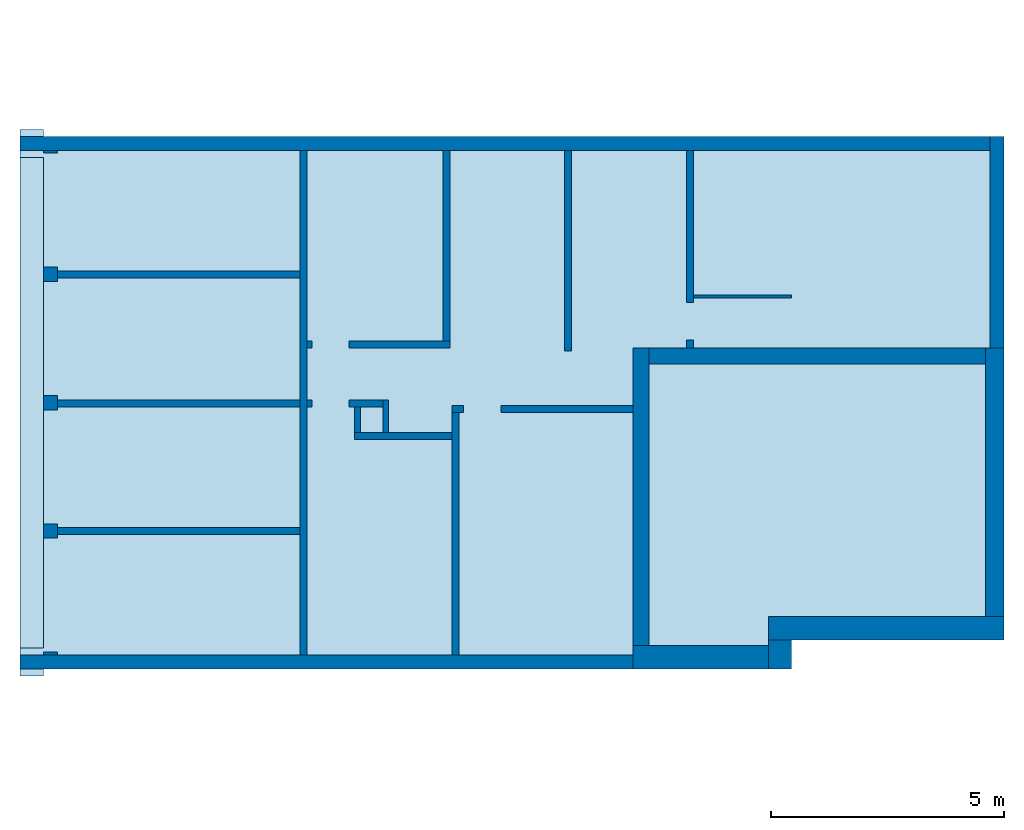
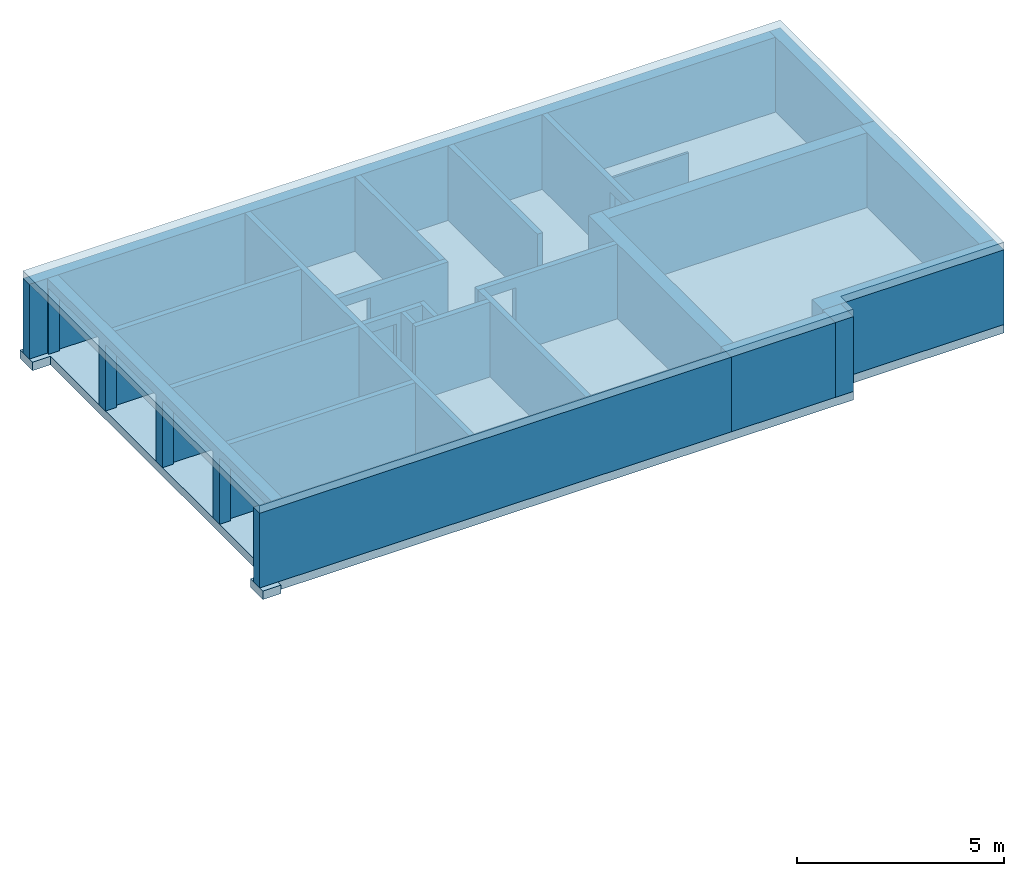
# One storey, part 1 of 2: 25 walls, 2 slabs, 8 openings.
"""IFC2X3 building model written with IfcOpenShell, lengths in metres."""

from ifc_helpers import new_model, entity, si_unit, converted_unit, derived_unit, direction, frame, frame_2d, origin, origin_with_axes, place, context, subcontext, project, spatial, polyline, rectangle, outline, extrude, faceted_brep, material, layer, layer_set, layer_usage, element, save


model = new_model("IFC2X3")

# Units and contexts
model_context = context("Model", 3, precision=1e-05, world=origin(), true_north=direction((0.772621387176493, -0.634867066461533)))
body_context = subcontext(model_context, "Body", "Model", "MODEL_VIEW")
ifc_project = project(units=[si_unit("LENGTHUNIT", "METRE"), si_unit("AREAUNIT", "SQUARE_METRE"), si_unit("VOLUMEUNIT", "CUBIC_METRE"), si_unit("MASSUNIT", "GRAM", prefix="KILO"), converted_unit("PLANEANGLEUNIT", "DEGREE", entity("IfcPlaneAngleMeasure", 0.0174532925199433), si_unit("PLANEANGLEUNIT", "RADIAN"), dimensions=[0, 0, 0, 0, 0, 0, 0]), derived_unit("THERMALTRANSMITTANCEUNIT", [(si_unit("POWERUNIT", "WATT"), 1), (si_unit("THERMODYNAMICTEMPERATUREUNIT", "KELVIN"), -1), (si_unit("LENGTHUNIT", "METRE"), -2)]), derived_unit("VOLUMETRICFLOWRATEUNIT", [(si_unit("LENGTHUNIT", "METRE"), 3), (converted_unit("TIMEUNIT", "hour", entity("IfcTimeMeasure", 3600.0), si_unit("TIMEUNIT", "SECOND"), dimensions=[0, 0, 1, 0, 0, 0, 0]), -1), (si_unit("LENGTHUNIT", "METRE"), -1)])], contexts=[model_context])

# Site, building, storey
site_placement = place(None, origin())
site = spatial("IfcSite", under=ifc_project, at=site_placement, Name="Modelle auf dem Nullpunkt", CompositionType="ELEMENT")
building_placement = place(site_placement, origin())
building = spatial("IfcBuilding", under=site, at=building_placement, Name="H", CompositionType="ELEMENT")
storey_placement = place(building_placement, origin())
storey = spatial("IfcBuildingStorey", under=building, at=storey_placement, Name="UG", CompositionType="ELEMENT", Elevation=0.0)

# Slabs
ifc_material_1 = material(Name="Béton")
slab_1_placement = place(storey_placement, frame((26.5338677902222, -8.88739379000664, 437.44)))
element("IfcSlab", 1, at=slab_1_placement, inside=storey, material=ifc_material_1, PredefinedType="FLOOR", context=body_context, shape_type="SweptSolid", body=[
    extrude(outline(polyline([(21.0800000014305, 0.620000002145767), (21.08, 11.4100000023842), (0.0, 11.41), (0.0, 0.0), (16.5300000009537, 0.0), (16.5300000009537, 0.62000000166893), (21.0800000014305, 0.620000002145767)])), origin_with_axes(), (0.0, 0.0, 1.0), 0.22),
])
ifc_material_2 = material(Name="Béton")
slab_2_placement = place(storey_placement, frame((26.5338677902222, -9.03739379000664, 434.99)))
element("IfcSlab", 2, at=slab_2_placement, inside=storey, material=ifc_material_2, PredefinedType="BASESLAB", context=body_context, shape_type="SweptSolid", body=[
    extrude(outline(polyline([(21.08, 11.5600000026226), (0.5, 11.5600000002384), (0.5, 11.7100000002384), (0.0, 11.7100000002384), (0.0, 11.1100000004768), (0.5, 11.1100000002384), (0.500000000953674, 0.602969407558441), (0.0, 0.602969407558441), (0.0, 0.0), (0.500000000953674, 0.0), (0.500000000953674, 0.150000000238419), (16.5300000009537, 0.15000000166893), (16.5300000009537, 0.770000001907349), (21.0800000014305, 0.770000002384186), (21.08, 11.5600000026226)])), origin_with_axes(), (0.0, 0.0, 1.0), 0.25),
])

# Walls
ifc_material_3 = material(Name="Béton")
ifc_layer_1 = layer(ifc_material_3, 0.300000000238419)
ifc_layer_set_1 = layer_set([ifc_layer_1])
ifc_layer_usage_1 = layer_usage(ifc_layer_set_1, "AXIS2", "POSITIVE", -5.08144056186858e-16)
wall_1_placement = place(storey_placement, frame((47.3138677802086, 2.52260620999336, 435.24), z_axis=(0.0, 0.0, 1.0), x_axis=(-1.0, -1.0326117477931e-10, 0.0)))
element("IfcWallStandardCase", 3, at=wall_1_placement, inside=storey, material=ifc_layer_usage_1, Name="Betonwand", context=body_context, shape_type="SweptSolid", body=[
    extrude(rectangle(XDim=20.78, YDim=0.300000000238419, at=frame_2d((10.39, 0.150000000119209), x_axis=(1.0, 0.0))), origin_with_axes(), (0.0, 0.0, 1.0), 2.2),
])
ifc_material_4 = material(Name="Béton")
ifc_layer_2 = layer(ifc_material_4, 0.300000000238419)
ifc_layer_set_2 = layer_set([ifc_layer_2])
ifc_layer_usage_2 = layer_usage(ifc_layer_set_2, "AXIS2", "POSITIVE", 0.0)
wall_2_placement = place(storey_placement, frame((26.5338677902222, -8.88739379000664, 435.24), z_axis=(0.0, 0.0, 1.0), x_axis=(1.0, 1.08949845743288e-10, 0.0)))
element("IfcWallStandardCase", 4, at=wall_2_placement, inside=storey, material=ifc_layer_usage_2, Name="Betonwand", context=body_context, shape_type="SweptSolid", body=[
    extrude(rectangle(XDim=13.13, YDim=0.300000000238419, at=frame_2d((6.565, 0.150000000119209), x_axis=(1.0, 0.0))), origin_with_axes(), (0.0, 0.0, 1.0), 2.2),
])
ifc_material_5 = material(Name="Béton")
ifc_layer_3 = layer(ifc_material_5, 0.499999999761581)
ifc_layer_set_3 = layer_set([ifc_layer_3])
ifc_layer_usage_3 = layer_usage(ifc_layer_set_3, "AXIS2", "POSITIVE", -1.79119171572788e-20)
wall_3_placement = place(storey_placement, frame((39.6638677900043, -8.88739379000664, 435.24), z_axis=(0.0, 0.0, 1.0), x_axis=(1.0, 8.22133031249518e-11, 0.0)))
element("IfcWallStandardCase", 5, at=wall_3_placement, inside=storey, material=ifc_layer_usage_3, Name="Betonwand", context=body_context, shape_type="SweptSolid", body=[
    extrude(rectangle(XDim=2.90000000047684, YDim=0.499999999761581, at=frame_2d((1.45000000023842, 0.249999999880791), x_axis=(1.0, 0.0))), origin_with_axes(), (0.0, 0.0, 1.0), 2.2),
])
ifc_material_6 = material(Name="Béton")
ifc_layer_4 = layer(ifc_material_6, 0.499999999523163)
ifc_layer_set_4 = layer_set([ifc_layer_4])
ifc_layer_usage_4 = layer_usage(ifc_layer_set_4, "AXIS2", "POSITIVE", 0.0)
wall_4_placement = place(storey_placement, frame((43.0638677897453, -8.88739379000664, 435.24), z_axis=(0.0, 0.0, 1.0), x_axis=(0.0, 1.0, 0.0)))
element("IfcWallStandardCase", 6, at=wall_4_placement, inside=storey, material=ifc_layer_usage_4, Name="Betonwand", context=body_context, shape_type="SweptSolid", body=[
    extrude(rectangle(XDim=0.620000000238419, YDim=0.499999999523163, at=frame_2d((0.310000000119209, 0.249999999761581), x_axis=(1.0, 0.0))), origin_with_axes(), (0.0, 0.0, 1.0), 2.2),
])
ifc_material_7 = material(Name="Béton")
ifc_layer_5 = layer(ifc_material_7, 0.35)
ifc_layer_set_5 = layer_set([ifc_layer_5])
ifc_layer_usage_5 = layer_usage(ifc_layer_set_5, "AXIS2", "POSITIVE", -1.50583635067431e-26)
wall_5_placement = place(storey_placement, frame((47.2138677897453, -2.00739379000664, 435.24), z_axis=(0.0, 0.0, 1.0), x_axis=(-1.0, -3.31136915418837e-11, 0.0)))
element("IfcWallStandardCase", 7, at=wall_5_placement, inside=storey, material=ifc_layer_usage_5, Name="Betonwand", context=body_context, shape_type="SweptSolid", body=[
    extrude(rectangle(XDim=7.2, YDim=0.35, at=frame_2d((3.6, 0.175), x_axis=(1.0, 0.0))), origin_with_axes(), (0.0, 0.0, 1.0), 2.2),
])
ifc_material_8 = material(Name="Béton")
ifc_layer_6 = layer(ifc_material_8, 0.4)
ifc_layer_set_6 = layer_set([ifc_layer_6])
ifc_layer_usage_6 = layer_usage(ifc_layer_set_6, "AXIS2", "POSITIVE", -8.49773569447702e-21)
wall_6_placement = place(storey_placement, frame((47.6138677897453, -7.76739379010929, 435.24), z_axis=(0.0, 0.0, 1.0), x_axis=(-8.27842288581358e-11, 1.0, 0.0)))
element("IfcWallStandardCase", 8, at=wall_6_placement, inside=storey, material=ifc_layer_usage_6, Name="Betonwand", context=body_context, shape_type="SweptSolid", body=[
    extrude(rectangle(XDim=5.75999999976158, YDim=0.4, at=frame_2d((2.87999999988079, 0.2), x_axis=(1.0, 0.0))), origin_with_axes(), (0.0, 0.0, 1.0), 2.2),
])
ifc_material_9 = material(Name="Béton")
ifc_layer_7 = layer(ifc_material_9, 0.500000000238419)
ifc_layer_set_7 = layer_set([ifc_layer_7])
ifc_layer_usage_7 = layer_usage(ifc_layer_set_7, "AXIS2", "POSITIVE", -2.70216707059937e-16)
wall_7_placement = place(storey_placement, frame((42.5638677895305, -8.26739379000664, 435.24), z_axis=(0.0, 0.0, 1.0), x_axis=(1.0, 9.44231996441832e-11, 0.0)))
element("IfcWallStandardCase", 9, at=wall_7_placement, inside=storey, material=ifc_layer_usage_7, Name="Betonwand", context=body_context, shape_type="SweptSolid", body=[
    extrude(rectangle(XDim=5.05, YDim=0.500000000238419, at=frame_2d((2.525, 0.250000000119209), x_axis=(1.0, 0.0))), origin_with_axes(), (0.0, 0.0, 1.0), 2.2),
])
ifc_material_10 = material(Name="Béton")
ifc_layer_8 = layer(ifc_material_10, 0.3)
ifc_layer_set_8 = layer_set([ifc_layer_8])
ifc_layer_usage_8 = layer_usage(ifc_layer_set_8, "AXIS2", "POSITIVE", -1.08862035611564e-20)
wall_8_placement = place(storey_placement, frame((47.6138677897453, -2.00739379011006, 435.24), z_axis=(0.0, 0.0, 1.0), x_axis=(-1.05262065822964e-10, 1.0, 0.0)))
element("IfcWallStandardCase", 10, at=wall_8_placement, inside=storey, material=ifc_layer_usage_8, Name="Betonwand", context=body_context, shape_type="SweptSolid", body=[
    extrude(rectangle(XDim=4.53000000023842, YDim=0.3, at=frame_2d((2.26500000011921, 0.15), x_axis=(1.0, 0.0))), origin_with_axes(), (0.0, 0.0, 1.0), 2.2),
])
ifc_material_11 = material(Name="Béton")
ifc_layer_9 = layer(ifc_material_11, 0.349999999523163)
ifc_layer_set_9 = layer_set([ifc_layer_9])
ifc_layer_usage_9 = layer_usage(ifc_layer_set_9, "AXIS2", "POSITIVE", -2.1729722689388e-20)
wall_9_placement = place(storey_placement, frame((39.6638677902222, -2.00739379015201, 435.24), z_axis=(0.0, 0.0, 1.0), x_axis=(1.49478732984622e-10, -1.0, 0.0)))
element("IfcWallStandardCase", 11, at=wall_9_placement, inside=storey, material=ifc_layer_usage_9, Name="Betonwand", context=body_context, shape_type="SweptSolid", body=[
    extrude(rectangle(XDim=6.37999999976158, YDim=0.349999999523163, at=frame_2d((3.18999999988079, 0.174999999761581), x_axis=(1.0, 0.0))), origin_with_axes(), (0.0, 0.0, 1.0), 2.2),
])
ifc_material_12 = material(Name="Brique")
ifc_layer_10 = layer(ifc_material_12, 0.15)
ifc_layer_set_10 = layer_set([ifc_layer_10])
ifc_layer_usage_10 = layer_usage(ifc_layer_set_10, "AXIS2", "POSITIVE", -1.22968193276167e-20)
wall_10_placement = place(storey_placement, frame((38.3438677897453, -2.07739379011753, 435.24), z_axis=(0.0, 0.0, 1.0), x_axis=(-1.10892362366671e-10, 1.0, 0.0)))
element("IfcWallStandardCase", 12, at=wall_10_placement, inside=storey, material=ifc_layer_usage_10, context=body_context, shape_type="SweptSolid", body=[
    extrude(rectangle(XDim=4.30000000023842, YDim=0.15, at=frame_2d((2.15000000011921, 0.075), x_axis=(1.0, 0.0))), origin_with_axes(), (0.0, 0.0, 1.0), 2.2),
])
ifc_material_13 = material(Name="Brique")
ifc_layer_11 = layer(ifc_material_13, 0.15)
ifc_layer_set_11 = layer_set([ifc_layer_11])
ifc_layer_usage_11 = layer_usage(ifc_layer_set_11, "AXIS2", "POSITIVE", -1.10999836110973e-20)
wall_11_placement = place(storey_placement, frame((32.6843677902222, -8.58739378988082, 435.24), z_axis=(0.0, 0.0, 1.0), x_axis=(-8.82214908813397e-11, 1.0, 0.0)))
element("IfcWallStandardCase", 13, at=wall_11_placement, inside=storey, material=ifc_layer_usage_11, context=body_context, shape_type="SweptSolid", body=[
    extrude(rectangle(XDim=10.8099999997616, YDim=0.15, at=frame_2d((5.4049999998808, 0.075), x_axis=(1.0, 0.0))), origin_with_axes(), (0.0, 0.0, 1.0), 2.2),
])
ifc_material_14 = material(Name="Brique")
ifc_layer_12 = layer(ifc_material_14, 0.15)
ifc_layer_set_12 = layer_set([ifc_layer_12])
ifc_layer_usage_12 = layer_usage(ifc_layer_set_12, "AXIS2", "POSITIVE", -2.44372067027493e-20)
wall_12_placement = place(storey_placement, frame((35.9338677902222, -8.58739378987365, 435.24), z_axis=(0.0, 0.0, 1.0), x_axis=(-1.83752276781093e-10, 1.0, 0.0)))
element("IfcWallStandardCase", 14, at=wall_12_placement, inside=storey, material=ifc_layer_usage_12, context=body_context, shape_type="SweptSolid", body=[
    extrude(rectangle(XDim=5.18999999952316, YDim=0.15, at=frame_2d((2.59499999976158, 0.075), x_axis=(1.0, 0.0))), origin_with_axes(), (0.0, 0.0, 1.0), 2.2),
])
ifc_material_15 = material(Name="Brique")
ifc_layer_13 = layer(ifc_material_15, 0.15)
ifc_layer_set_13 = layer_set([ifc_layer_13])
ifc_layer_usage_13 = layer_usage(ifc_layer_set_13, "AXIS2", "POSITIVE", -1.2907320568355e-20)
wall_13_placement = place(storey_placement, frame((35.5993677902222, 2.2226062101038, 435.24), z_axis=(0.0, 0.0, 1.0), x_axis=(1.16871852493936e-10, -1.0, 0.0)))
element("IfcWallStandardCase", 15, at=wall_13_placement, inside=storey, material=ifc_layer_usage_13, context=body_context, shape_type="SweptSolid", body=[
    extrude(rectangle(XDim=4.08000000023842, YDim=0.15, at=frame_2d((2.04000000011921, 0.075), x_axis=(1.0, 0.0))), origin_with_axes(), (0.0, 0.0, 1.0), 2.2),
])
ifc_material_16 = material(Name="Brique")
ifc_layer_14 = layer(ifc_material_16, 0.15)
ifc_layer_set_14 = layer_set([ifc_layer_14])
ifc_layer_usage_14 = layer_usage(ifc_layer_set_14, "AXIS2", "POSITIVE", 0.0)
wall_14_placement = place(storey_placement, frame((27.3338677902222, -6.00739379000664, 435.24), z_axis=(0.0, 0.0, 1.0), x_axis=(1.0, 4.58453185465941e-11, 0.0)))
element("IfcWallStandardCase", 16, at=wall_14_placement, inside=storey, material=ifc_layer_usage_14, context=body_context, shape_type="SweptSolid", body=[
    extrude(rectangle(XDim=5.2005, YDim=0.15, at=frame_2d((2.60025, 0.075), x_axis=(1.0, 0.0))), origin_with_axes(), (0.0, 0.0, 1.0), 2.2),
])
ifc_material_17 = material(Name="Brique")
ifc_layer_15 = layer(ifc_material_17, 0.15)
ifc_layer_set_15 = layer_set([ifc_layer_15])
ifc_layer_usage_15 = layer_usage(ifc_layer_set_15, "AXIS2", "POSITIVE", 0.0)
wall_15_placement = place(storey_placement, frame((27.3338677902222, -3.27739379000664, 435.24), z_axis=(0.0, 0.0, 1.0), x_axis=(1.0, 9.16906370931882e-11, 0.0)))
element("IfcWallStandardCase", 17, at=wall_15_placement, inside=storey, material=ifc_layer_usage_15, context=body_context, shape_type="SweptSolid", body=[
    extrude(rectangle(XDim=5.2005, YDim=0.15, at=frame_2d((2.60025, 0.075), x_axis=(1.0, 0.0))), origin_with_axes(), (0.0, 0.0, 1.0), 2.2),
])
ifc_material_18 = material(Name="Brique")
ifc_layer_16 = layer(ifc_material_18, 0.15)
ifc_layer_set_16 = layer_set([ifc_layer_16])
ifc_layer_usage_16 = layer_usage(ifc_layer_set_16, "AXIS2", "POSITIVE", 0.0)
wall_16_placement = place(storey_placement, frame((32.5343677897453, -0.357393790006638, 435.24), z_axis=(0.0, 0.0, 1.0), x_axis=(-1.0, -1.37535955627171e-10, 0.0)))
element("IfcWallStandardCase", 18, at=wall_16_placement, inside=storey, material=ifc_layer_usage_16, context=body_context, shape_type="SweptSolid", body=[
    extrude(rectangle(XDim=5.20050000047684, YDim=0.15, at=frame_2d((2.60025000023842, 0.075), x_axis=(1.0, 0.0))), origin_with_axes(), (0.0, 0.0, 1.0), 2.2),
])
ifc_material_19 = material(Name="Brique")
ifc_layer_17 = layer(ifc_material_19, 0.12)
ifc_layer_set_17 = layer_set([ifc_layer_17])
ifc_layer_usage_17 = layer_usage(ifc_layer_set_17, "AXIS2", "POSITIVE", 0.0)
wall_17_placement = place(storey_placement, frame((34.4288677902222, -3.82739379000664, 435.24), z_axis=(0.0, 0.0, 1.0), x_axis=(0.0, 1.0, 0.0)))
element("IfcWallStandardCase", 19, at=wall_17_placement, inside=storey, material=ifc_layer_usage_17, context=body_context, shape_type="SweptSolid", body=[
    extrude(rectangle(XDim=0.700000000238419, YDim=0.12, at=frame_2d((0.35000000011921, 0.06), x_axis=(1.0, 0.0))), origin_with_axes(), (0.0, 0.0, 1.0), 2.2),
])
ifc_material_20 = material(Name="Brique")
ifc_layer_18 = layer(ifc_material_20, 0.12)
ifc_layer_set_18 = layer_set([ifc_layer_18])
ifc_layer_usage_18 = layer_usage(ifc_layer_set_18, "AXIS2", "POSITIVE", 0.0)
wall_18_placement = place(storey_placement, frame((33.7043677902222, -3.27739379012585, 435.24), z_axis=(0.0, 0.0, 1.0), x_axis=(0.0, -1.0, 0.0)))
element("IfcWallStandardCase", 20, at=wall_18_placement, inside=storey, material=ifc_layer_usage_18, context=body_context, shape_type="SweptSolid", body=[
    extrude(rectangle(XDim=0.549999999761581, YDim=0.12, at=frame_2d((0.274999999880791, 0.06), x_axis=(1.0, 0.0))), origin_with_axes(), (0.0, 0.0, 1.0), 2.2),
])
ifc_material_21 = material(Name="Brique")
ifc_layer_19 = layer(ifc_material_21, 0.150000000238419)
ifc_layer_set_19 = layer_set([ifc_layer_19])
ifc_layer_usage_19 = layer_usage(ifc_layer_set_19, "AXIS2", "POSITIVE", 0.0)
wall_19_placement = place(storey_placement, frame((35.7838677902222, -3.82739379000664, 435.24), z_axis=(0.0, 0.0, 1.0), x_axis=(-1.0, 0.0, 0.0)))
element("IfcWallStandardCase", 21, at=wall_19_placement, inside=storey, material=ifc_layer_usage_19, context=body_context, shape_type="SweptSolid", body=[
    extrude(rectangle(XDim=2.07950000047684, YDim=0.150000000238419, at=frame_2d((1.03975000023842, 0.0750000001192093), x_axis=(1.0, 0.0))), origin_with_axes(), (0.0, 0.0, 1.0), 2.2),
])

# Wall, opening
ifc_material_22 = material(Name="Brique")
ifc_layer_20 = layer(ifc_material_22, 0.150000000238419)
ifc_layer_set_20 = layer_set([ifc_layer_20])
ifc_layer_usage_20 = layer_usage(ifc_layer_set_20, "AXIS2", "POSITIVE", -2.27373675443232e-16)
wall_20_placement = place(storey_placement, frame((35.7493677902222, -1.85739379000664, 435.24), z_axis=(0.0, 0.0, 1.0), x_axis=(-1.0, 0.0, 0.0)))
wall_20 = element("IfcWallStandardCase", 22, at=wall_20_placement, inside=storey, material=ifc_layer_usage_20, context=body_context, shape_type="SweptSolid", body=[
    extrude(rectangle(XDim=3.065, YDim=0.150000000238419, at=frame_2d((1.5325, 0.0750000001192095), x_axis=(1.0, 0.0))), origin_with_axes(), (0.0, 0.0, 1.0), 2.2),
])
opening_1_placement = place(wall_20_placement, frame((2.165, 0.0, 0.0), z_axis=(0.0, 1.0, 0.0), x_axis=(0.0, 0.0, 1.0)))
element("IfcOpeningElement", 23, at=opening_1_placement, cuts=wall_20, Name="Türöffnung", ObjectType="Opening", context=body_context, shape_type="SweptSolid", body=[
    extrude(outline(polyline([(1.9, 0.8), (1.9, 0.0), (0.0, 0.0), (0.0, 0.8), (1.9, 0.8)])), origin_with_axes(), (0.0, 0.0, 1.0), 0.150000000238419),
])

ifc_material_23 = material(Name="Brique")
ifc_layer_21 = layer(ifc_material_23, 0.150000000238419)
ifc_layer_set_21 = layer_set([ifc_layer_21])
ifc_layer_usage_21 = layer_usage(ifc_layer_set_21, "AXIS2", "POSITIVE", 0.0)
wall_21_placement = place(storey_placement, frame((32.6843677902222, -3.27739379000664, 435.24)))
wall_21 = element("IfcWallStandardCase", 24, at=wall_21_placement, inside=storey, material=ifc_layer_usage_21, context=body_context, shape_type="SweptSolid", body=[
    extrude(rectangle(XDim=1.62449999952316, YDim=0.150000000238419, at=frame_2d((0.812249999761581, 0.0750000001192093), x_axis=(1.0, 0.0))), origin_with_axes(), (0.0, 0.0, 1.0), 2.2),
])
opening_2_placement = place(wall_21_placement, frame((0.1, 0.0, 0.0), z_axis=(0.0, 1.0, 0.0), x_axis=(0.0, 0.0, 1.0)))
element("IfcOpeningElement", 25, at=opening_2_placement, cuts=wall_21, Name="Türöffnung", ObjectType="Opening", context=body_context, shape_type="SweptSolid", body=[
    extrude(outline(polyline([(1.9, 0.799999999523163), (1.9, 0.0), (0.0, 0.0), (0.0, 0.799999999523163), (1.9, 0.799999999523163)])), origin_with_axes(), (0.0, 0.0, 1.0), 0.150000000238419),
])

# Wall
ifc_material_24 = material(Name="Brique")
ifc_layer_22 = layer(ifc_material_24, 0.06)
ifc_layer_set_22 = layer_set([ifc_layer_22])
ifc_layer_usage_22 = layer_usage(ifc_layer_set_22, "AXIS2", "POSITIVE", -2.74544771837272e-20)
wall_22_placement = place(storey_placement, frame((40.9638677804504, -0.937393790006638, 435.24), z_axis=(0.0, 0.0, 1.0), x_axis=(1.0, 1.1353265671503e-10, 0.0)))
element("IfcWallStandardCase", 26, at=wall_22_placement, inside=storey, material=ifc_layer_usage_22, context=body_context, shape_type="SweptSolid", body=[
    extrude(rectangle(XDim=2.1, YDim=0.06, at=frame_2d((1.05, 0.03), x_axis=(1.0, 0.0))), origin_with_axes(), (0.0, 0.0, 1.0), 2.2),
])

# Wall, opening
ifc_material_25 = material(Name="Brique")
wall_23_placement = place(storey_placement, frame((40.8138677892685, -2.00739378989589, 435.24)))
wall_23 = element("IfcWall", 27, at=wall_23_placement, inside=storey, material=ifc_material_25, context=body_context, shape_type="Brep", body=[
    faceted_brep([(0.150000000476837, 0.0, 0.0), (0.0, 0.0, 0.0), (0.0, 0.0, 2.2), (0.150000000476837, 0.0, 2.2), (0.0, 4.23, 0.0), (0.0, 4.23, 2.2), (0.15, 4.23000000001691, 0.0), (0.15, 4.23000000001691, 2.2)], [[[0, 1, 2, 3]], [[1, 4, 5, 2]], [[4, 6, 7, 5]], [[6, 0, 3, 7]], [[3, 2, 5, 7]], [[0, 6, 4, 1]]], orient=[[False], [False], [False], [False], [False], [False]]),
])
opening_3_placement = place(wall_23_placement, frame((0.0, 0.169999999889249, 0.0)))
element("IfcOpeningElement", 28, at=opening_3_placement, cuts=wall_23, ObjectType="Opening", context=body_context, shape_type="Brep", body=[
    faceted_brep([(0.15, 0.799999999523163, 0.0), (0.15, 0.0, 0.0), (0.15, 0.0, 1.9), (0.15, 0.799999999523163, 1.9), (0.0, 0.799999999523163, 0.0), (0.0, 0.799999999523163, 1.9), (0.0, 0.0, 1.9), (0.0, 0.0, 0.0)], [[[0, 1, 2, 3]], [[4, 5, 6, 7]], [[1, 0, 4, 7]], [[2, 1, 7, 6]], [[3, 2, 6, 5]], [[0, 3, 5, 4]]], orient=[[False], [False], [False], [False], [False], [False]]),
])

ifc_material_26 = material(Name="Brique")
wall_24_placement = place(storey_placement, frame((35.7838677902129, -3.39739379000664, 435.24)))
wall_24 = element("IfcWall", 29, at=wall_24_placement, inside=storey, material=ifc_material_26, context=body_context, shape_type="Brep", body=[
    faceted_brep([(0.0, 0.0, 0.0), (0.0, 0.150000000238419, 0.0), (0.0, 0.150000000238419, 2.2), (0.0, 0.0, 2.2), (3.88000000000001, 0.150000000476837, 0.0), (3.88000000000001, 0.150000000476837, 2.2), (3.88000000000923, 0.0, 0.0), (3.88000000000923, 0.0, 2.2)], [[[0, 1, 2, 3]], [[1, 4, 5, 2]], [[4, 6, 7, 5]], [[6, 0, 3, 7]], [[3, 2, 5, 7]], [[0, 6, 4, 1]]], orient=[[False], [False], [False], [False], [False], [False]]),
])
opening_4_placement = place(wall_24_placement, frame((0.250000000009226, 0.0, 0.0)))
element("IfcOpeningElement", 30, at=opening_4_placement, cuts=wall_24, ObjectType="Opening", context=body_context, shape_type="Brep", body=[
    faceted_brep([(0.799999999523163, 0.0, 0.0), (0.0, 0.0, 0.0), (0.0, 0.0, 1.9), (0.799999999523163, 0.0, 1.9), (0.799999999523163, 0.15, 0.0), (0.799999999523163, 0.15, 1.9), (0.0, 0.15, 1.9), (0.0, 0.15, 0.0)], [[[0, 1, 2, 3]], [[4, 5, 6, 7]], [[1, 0, 4, 7]], [[2, 1, 7, 6]], [[3, 2, 6, 5]], [[0, 3, 5, 4]]], orient=[[False], [False], [False], [False], [False], [False]]),
])

# Wall, openings
ifc_material_27 = material(Name="Béton")
wall_25_placement = place(storey_placement, frame((27.0338677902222, -8.58739378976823, 435.24)))
wall_25 = element("IfcWall", 31, at=wall_25_placement, inside=storey, material=ifc_material_27, Name="Betonwand", context=body_context, shape_type="Brep", body=[
    faceted_brep([(0.0, 10.8099999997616, 0.0), (0.300000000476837, 10.8099999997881, 0.0), (0.300000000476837, 10.8099999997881, 2.2), (0.0, 10.8099999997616, 2.2), (0.300000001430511, 0.0, 0.0), (0.300000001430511, 0.0, 2.2), (0.0, 0.0, 0.0), (0.0, 0.0, 2.2)], [[[0, 1, 2, 3]], [[1, 4, 5, 2]], [[4, 6, 7, 5]], [[6, 0, 3, 7]], [[3, 2, 5, 7]], [[0, 6, 4, 1]]], orient=[[False], [False], [False], [False], [False], [False]]),
])
opening_5_placement = place(wall_25_placement, frame((0.0, 5.56, 0.0)))
element("IfcOpeningElement", 32, at=opening_5_placement, cuts=wall_25, ObjectType="Opening", context=body_context, shape_type="Brep", body=[
    faceted_brep([(0.3, 2.44, 0.0), (0.3, 0.0, 0.0), (0.3, 0.0, 1.95), (0.3, 2.44, 1.95), (0.0, 2.44, 0.0), (0.0, 2.44, 1.95), (0.0, 0.0, 1.95), (0.0, 0.0, 0.0)], [[[0, 1, 2, 3]], [[4, 5, 6, 7]], [[1, 0, 4, 7]], [[2, 1, 7, 6]], [[3, 2, 6, 5]], [[0, 3, 5, 4]]], orient=[[False], [False], [False], [False], [False], [False]]),
])
opening_6_placement = place(wall_25_placement, frame((0.0, 0.059999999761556, 0.0)))
element("IfcOpeningElement", 33, at=opening_6_placement, cuts=wall_25, ObjectType="Opening", context=body_context, shape_type="Brep", body=[
    faceted_brep([(0.3, 2.44, 0.0), (0.3, 0.0, 0.0), (0.3, 0.0, 1.95), (0.3, 2.44, 1.95), (0.0, 2.44, 0.0), (0.0, 2.44, 1.95), (0.0, 0.0, 1.95), (0.0, 0.0, 0.0)], [[[0, 1, 2, 3]], [[4, 5, 6, 7]], [[1, 0, 4, 7]], [[2, 1, 7, 6]], [[3, 2, 6, 5]], [[0, 3, 5, 4]]], orient=[[False], [False], [False], [False], [False], [False]]),
])
opening_7_placement = place(wall_25_placement, frame((0.0, 8.30999999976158, 0.0)))
element("IfcOpeningElement", 34, at=opening_7_placement, cuts=wall_25, ObjectType="Opening", context=body_context, shape_type="Brep", body=[
    faceted_brep([(0.3, 2.44, 0.0), (0.3, 0.0, 0.0), (0.3, 0.0, 1.95), (0.3, 2.44, 1.95), (0.0, 2.44, 0.0), (0.0, 2.44, 1.95), (0.0, 0.0, 1.95), (0.0, 0.0, 0.0)], [[[0, 1, 2, 3]], [[4, 5, 6, 7]], [[1, 0, 4, 7]], [[2, 1, 7, 6]], [[3, 2, 6, 5]], [[0, 3, 5, 4]]], orient=[[False], [False], [False], [False], [False], [False]]),
])
opening_8_placement = place(wall_25_placement, frame((0.0, 2.81, 0.0)))
element("IfcOpeningElement", 35, at=opening_8_placement, cuts=wall_25, ObjectType="Opening", context=body_context, shape_type="Brep", body=[
    faceted_brep([(0.3, 2.44, 0.0), (0.3, 0.0, 0.0), (0.3, 0.0, 1.95), (0.3, 2.44, 1.95), (0.0, 2.44, 0.0), (0.0, 2.44, 1.95), (0.0, 0.0, 1.95), (0.0, 0.0, 0.0)], [[[0, 1, 2, 3]], [[4, 5, 6, 7]], [[1, 0, 4, 7]], [[2, 1, 7, 6]], [[3, 2, 6, 5]], [[0, 3, 5, 4]]], orient=[[False], [False], [False], [False], [False], [False]]),
])

save(model, "model.ifc")
